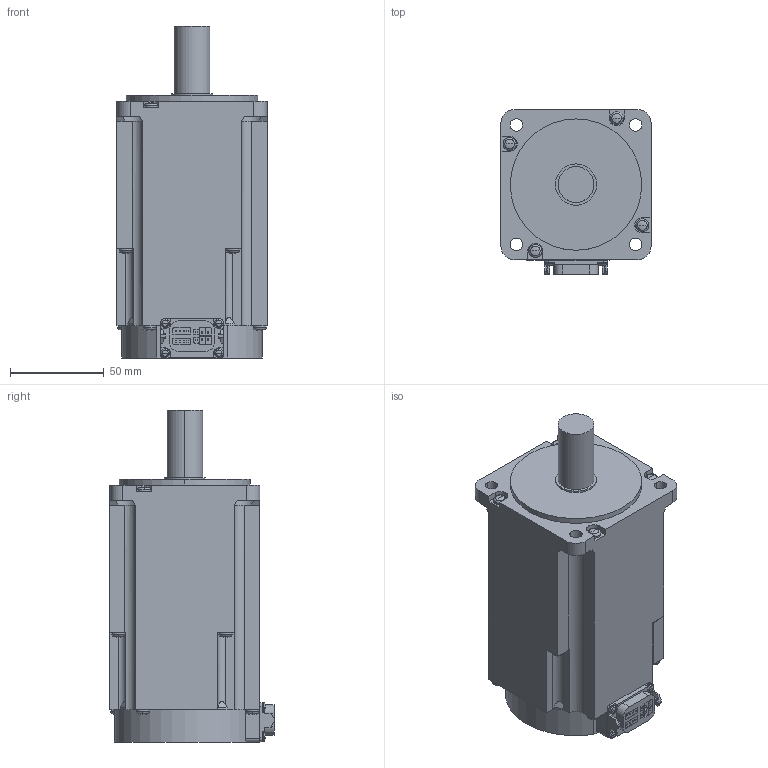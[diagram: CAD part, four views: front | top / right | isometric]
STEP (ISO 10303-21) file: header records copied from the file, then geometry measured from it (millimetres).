
FILE_DESCRIPTION((''),'2;1');
FILE_NAME('HK-KT103WB_-_ASM','2019-01-16T',('XE90682'),(''),'CREO PARAMETRIC BY PTC INC, 2016380','CREO PARAMETRIC BY PTC INC, 2016380','');
FILE_SCHEMA(('CONFIG_CONTROL_DESIGN'));
Length unit declared in the file: millimetre
Products named in the file (1): HK-KT103WB_-_ASM
Bounding box: 80 x 87.65 x 177 mm (x, y, z)
Volume: 776278 mm3; surface area: 58792 mm2
Topology: 1 solids, 1 shells, 401 faces, 1043 edges, 655 vertices
Faces by surface type: plane 220, cylinder 113, torus 32, sphere 32, cone 4
Entity records: 12249 total; most frequent: CARTESIAN_POINT 2278, DIRECTION 2124, ORIENTED_EDGE 2022, EDGE_CURVE 1011, AXIS2_PLACEMENT_3D 728, VECTOR 668, LINE 668, VERTEX_POINT 655
